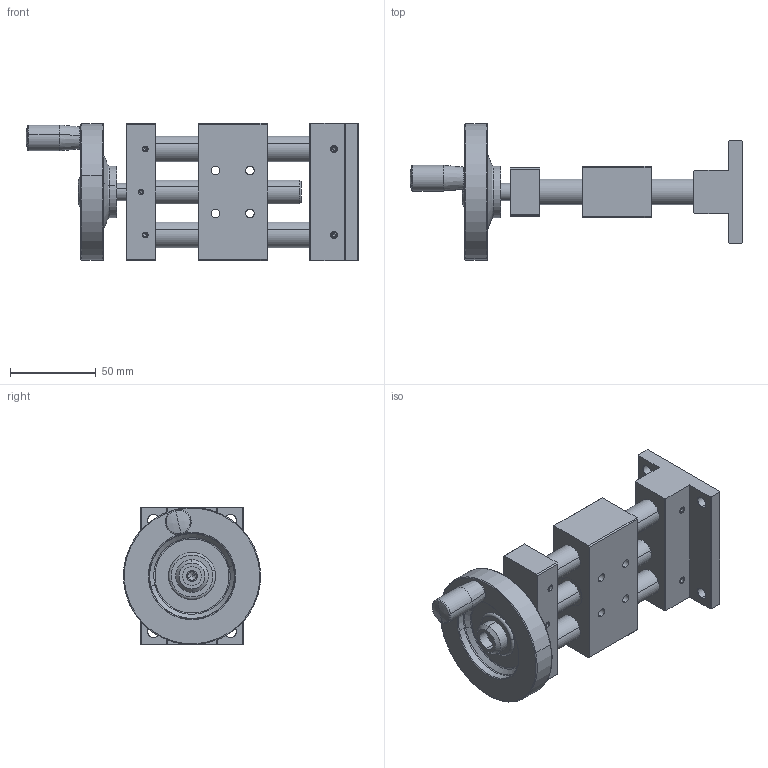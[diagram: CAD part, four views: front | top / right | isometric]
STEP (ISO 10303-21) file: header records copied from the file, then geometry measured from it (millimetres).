
FILE_DESCRIPTION (( 'STEP AP203' ), '1' );
FILE_NAME ('BHT40-25.STEP', '2024-02-28T07:56:53', ( 'China' ), ( 'Microsoft' ), 'SwSTEP 2.0', 'SolidWorks 2024', '' );
FILE_SCHEMA (( 'CONFIG_CONTROL_DESIGN' ));
Length unit declared in the file: millimetre
Products named in the file (1): BHT40-25
Bounding box: 193.5 x 79.79 x 80 mm (x, y, z)
Volume: 292882.3 mm3; surface area: 88605.4 mm2
Topology: 23 solids, 23 shells, 548 faces, 1251 edges, 756 vertices
Faces by surface type: plane 249, cylinder 146, cone 129, torus 22, sphere 2
Entity records: 15962 total; most frequent: CARTESIAN_POINT 3248, DIRECTION 2807, ORIENTED_EDGE 2450, EDGE_CURVE 1225, AXIS2_PLACEMENT_3D 1063, VERTEX_POINT 756, LINE 681, VECTOR 681
